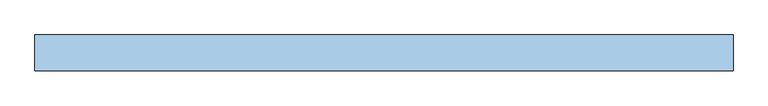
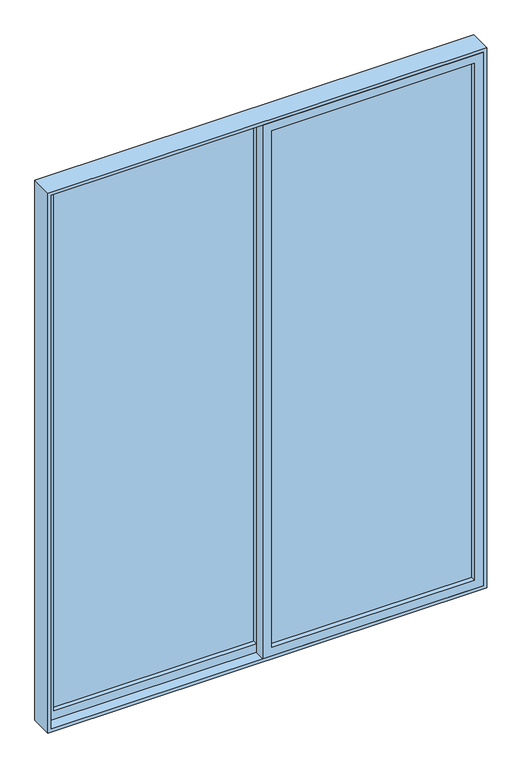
"""IFC4 building model written with IfcOpenShell, lengths in millimetres: window geometry, VENT_ALUM_CORR_2HOJAS_CORRE 1 : VD-3 / CORRE RECAM 1.96 X 2.55."""

from ifc_helpers import new_model, si_unit, frame, origin, place, context, project, spatial, polyline, outline, extrude, source, transform, mapped, element, save


def window_5cb5d123(model_context):
    return source(origin(), model_context, "Body", "SweptSolid", [
        extrude(outline(polyline([(-20.0, 28.0), (-20.0, 22.0), (-925.0, 22.0), (-925.0, 28.0), (-20.0, 28.0)])), frame((0.0, 0.0, 855.0), z_axis=(0.0, 0.0, 1.0), x_axis=(1.0, 0.0, 0.0)), (0.0, 0.0, 1.0), 2440.0),
        extrude(outline(polyline([(3335.0, -965.0), (815.0, -965.0), (815.0, 20.0), (3335.0, 20.0), (3335.0, -965.0)]), holes=[polyline([(855.0, -925.0), (3295.0, -925.0), (3295.0, -20.0), (855.0, -20.0), (855.0, -925.0)])]), frame((0.0, 0.0, 0.0), z_axis=(0.0, 1.0, 0.0), x_axis=(0.0, 0.0, 1.0)), (0.0, 0.0, 1.0), 50.0),
        extrude(outline(polyline([(20.0, -28.0), (20.0, -22.0), (925.0, -22.0), (925.0, -28.0), (20.0, -28.0)])), frame((0.0, 0.0, 855.0), z_axis=(0.0, 0.0, 1.0), x_axis=(1.0, 0.0, 0.0)), (0.0, 0.0, 1.0), 2440.0),
        extrude(outline(polyline([(3335.0, -20.0), (815.0, -20.0), (815.0, 965.0), (3335.0, 965.0), (3335.0, -20.0)]), holes=[polyline([(855.0, 20.0), (3295.0, 20.0), (3295.0, 925.0), (855.0, 925.0), (855.0, 20.0)])]), frame((0.0, -50.0, 0.0), z_axis=(0.0, 1.0, 0.0), x_axis=(0.0, 0.0, 1.0)), (0.0, 0.0, 1.0), 50.0),
        extrude(outline(polyline([(3350.0, -980.0), (800.0, -980.0), (800.0, 980.0), (3350.0, 980.0), (3350.0, -980.0)]), holes=[polyline([(815.0, -965.0), (3335.0, -965.0), (3335.0, 965.0), (815.0, 965.0), (815.0, -965.0)])]), frame((0.0, -50.0, 0.0), z_axis=(0.0, 1.0, 0.0), x_axis=(0.0, 0.0, 1.0)), (0.0, 0.0, 1.0), 100.0),
    ])


if __name__ == "__main__":
    model = new_model("IFC4")
    model_context = context("Model", 3, world=origin())
    ifc_project = project(units=[si_unit("LENGTHUNIT", "METRE", prefix="MILLI")], contexts=[model_context])
    site = spatial("IfcSite", under=ifc_project)
    building = spatial("IfcBuilding", under=site)
    placement = place(None, origin())
    window_shape = window_5cb5d123(model_context)
    element("IfcWindow", 1, ObjectType="VENT_ALUM_CORR_2HOJAS_CORRE 1 : VD-3 / CORRE RECAM 1.96 X 2.55", at=placement, inside=building, context=model_context, shape_type="MappedRepresentation", body=[
        mapped(window_shape, transform((0.0, 0.0, 0.0), x_axis=(1.0, 0.0, 0.0), y_axis=(0.0, 1.0, 0.0), z_axis=(0.0, 0.0, 1.0))),
    ])
    save(model, "model.ifc")
